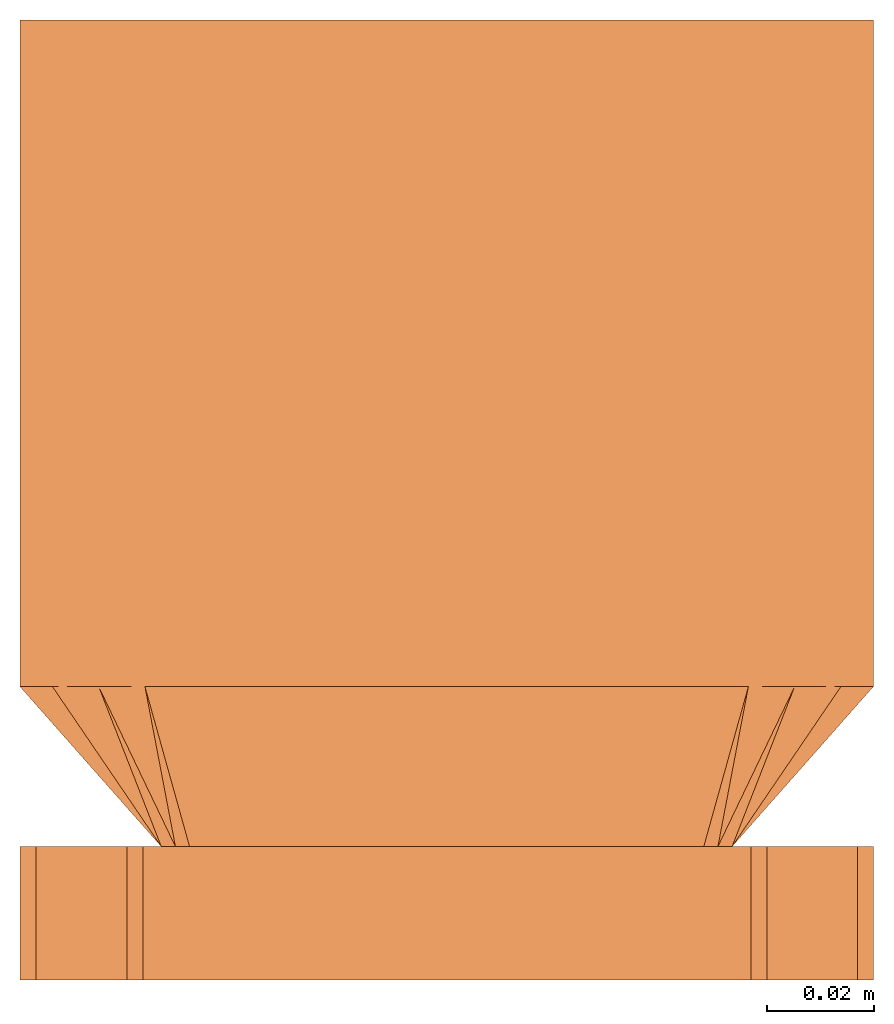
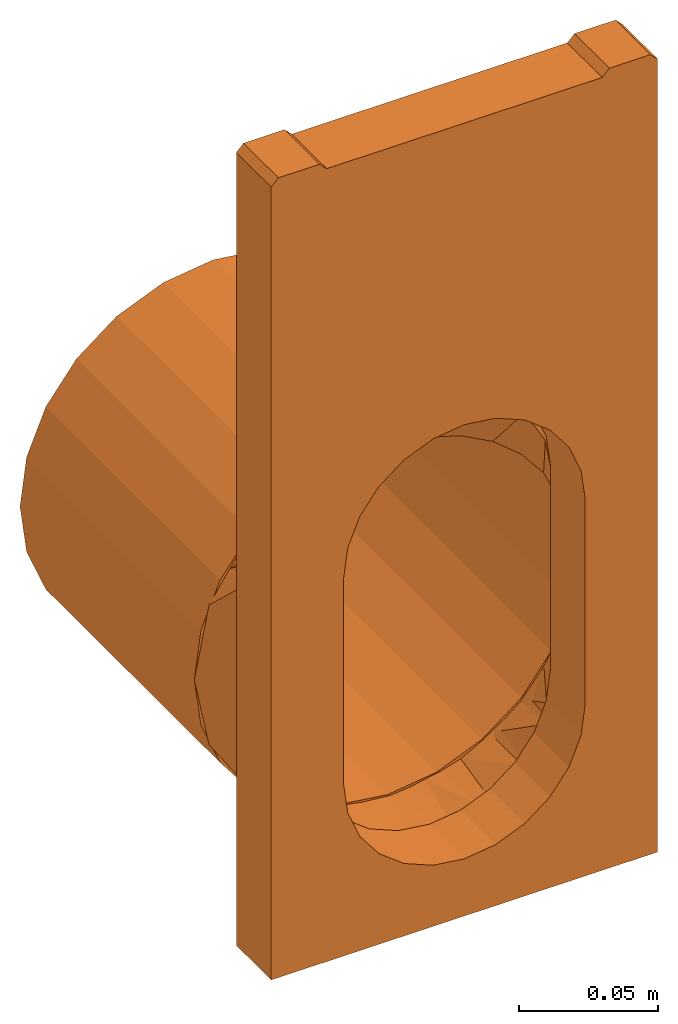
# One storey: 1 proxy.
"""IFC2X3 building model written with IfcOpenShell, lengths in millimetres."""

from ifc_helpers import new_model, entity, si_unit, converted_unit, direction, frame, origin, place, context, subcontext, project, spatial, faceted_brep, source, transform, mapped, material, element, save


model = new_model("IFC2X3")

# Units and contexts
model_context = context("Model", 3, precision=1e-06, world=origin(), true_north=direction((2.0, 6.12303176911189e-17, 1.0)))
context_of_model = context(None, 3, precision=1e-06, world=origin(), true_north=direction((2.0, 6.12303176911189e-17, 1.0)))
body_context = subcontext(model_context, "Body", "Model", "MODEL_VIEW")
ifc_project = project(units=[si_unit("LENGTHUNIT", "METRE", prefix="MILLI"), si_unit("AREAUNIT", "SQUARE_METRE", prefix="MILLI"), si_unit("VOLUMEUNIT", "CUBIC_METRE", prefix="MILLI"), converted_unit("PLANEANGLEUNIT", "DEGREE", entity("IfcRatioMeasure", 0.0174532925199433), si_unit("PLANEANGLEUNIT", "RADIAN"), dimensions=[0, 0, 0, 0, 0, 0, 0]), si_unit("TIMEUNIT", "SECOND")], contexts=[model_context, context_of_model])

# Site, building, storey
site_placement = place(None, origin())
site = spatial("IfcSite", under=ifc_project, at=site_placement, Name="Default", CompositionType="ELEMENT")
building_placement = place(site_placement, origin())
building = spatial("IfcBuilding", under=site, at=building_placement, CompositionType="ELEMENT")
storey_placement = place(building_placement, frame((0.0, 0.0, -300.0)))
storey = spatial("IfcBuildingStorey", under=building, at=storey_placement, Name="T.O. Fnd. Wall", CompositionType="ELEMENT", Elevation=-300.0)

# Proxy
ifc_material = material(Name="Acetal Resin, Black")
shared_shape = source(origin(), body_context, "Body", "Brep", [
    faceted_brep([(30.5712097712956, 55.0, -178.055268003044), (43.548143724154, 55.0, -186.726178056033), (43.4342889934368, 55.0, -190.843858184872), (30.209362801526, 55.0, -183.772672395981), (-0.0434648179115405, 55.0, -171.965630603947), (15.263872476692, 55.0, -175.010449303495), (15.8589116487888, 55.0, -179.417400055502), (0.934387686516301, 55.0, -177.945480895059), (56.5250776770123, 55.0, -195.397088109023), (55.02550662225, 55.0, -200.359168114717), (73.8668977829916, 55.0, -221.350956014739), (77.6982946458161, 55.0, -240.612688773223), (75.956487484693, 55.0, -239.530783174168), (71.6051354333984, 55.0, -225.179539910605), (64.5376212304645, 55.0, -211.952909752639), (65.195987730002, 55.0, -208.374022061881), (-30.6581394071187, 55.0, -178.055268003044), (-15.3508021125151, 55.0, -175.010449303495), (-13.9906722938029, 55.0, -179.41356594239), (-28.3426808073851, 55.0, -183.765333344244), (-56.6120073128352, 55.0, -195.397088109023), (-43.6350733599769, 55.0, -186.726178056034), (-41.5700376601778, 55.0, -190.833643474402), (-53.1643256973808, 55.0, -200.346951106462), (-62.6798502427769, 55.0, -211.939729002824), (-69.7507715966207, 55.0, -225.16650323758), (-73.9538274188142, 55.0, -221.35095601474), (-65.2829173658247, 55.0, -208.374022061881), (-80.0434648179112, 55.0, -251.965630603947), (-77.7852242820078, 55.0, -240.61268877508), (-74.1051722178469, 55.0, -239.518961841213), (-75.0352938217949, 55.0, -248.961284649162), (-13.9906722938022, 55.0, -329.477394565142), (-16.7329911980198, 55.0, -328.645877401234), (-15.3508021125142, 55.0, -328.920811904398), (-11.1459231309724, 55.0, -329.757214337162), (79.9565351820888, 55.0, -251.965630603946), (77.4244822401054, 55.0, -254.445480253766), (76.8846889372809, 55.0, -248.961227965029), (75.9564874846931, 55.0, -269.360177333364), (76.884688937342, 55.0, -259.929732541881), (77.6982946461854, 55.0, -263.318572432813), (71.6051354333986, 55.0, -283.711420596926), (73.8668977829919, 55.0, -282.580305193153), (65.5926618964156, 55.0, -294.963574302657), (56.525077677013, 55.0, -308.53417309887), (48.4493637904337, 55.0, -313.930192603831), (55.0255066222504, 55.0, -308.531792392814), (63.1137771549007, 55.0, -298.673487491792), (43.4342889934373, 55.0, -318.04710232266), (37.696558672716, 55.0, -321.114987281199), (43.5481437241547, 55.0, -317.20508315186), (9.1671071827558, 55.0, -330.133533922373), (-0.0434648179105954, 55.0, -331.965630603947), (0.934387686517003, 55.0, -330.945479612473), (30.2093628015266, 55.0, -325.11828811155), (30.5712097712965, 55.0, -325.87599320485), (22.2760080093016, 55.0, -327.52601142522), (-73.9538274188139, 55.0, -282.580305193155), (-69.7507715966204, 55.0, -283.724457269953), (-62.6798502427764, 55.0, -296.951231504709), (-65.2829173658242, 55.0, -295.557239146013), (-53.1643256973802, 55.0, -308.544009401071), (-56.6120073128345, 55.0, -308.534173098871), (-77.7852242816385, 55.0, -263.31857243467), (-74.1051722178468, 55.0, -269.37199866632), (-75.5755177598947, 55.0, -254.445480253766), (-75.0352938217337, 55.0, -259.929675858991), (-30.6581394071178, 55.0, -325.87599320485), (-28.3426808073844, 55.0, -325.125627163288), (-41.5700376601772, 55.0, -318.05731703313), (-43.6350733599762, 55.0, -317.20508315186), (15.8589116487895, 55.0, -329.473560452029), (15.263872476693, 55.0, -328.920811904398), (64.5376212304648, 55.0, -296.938050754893), (65.1959877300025, 55.0, -295.557239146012), (-11.9483347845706, 25.0, -136.306987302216), (-22.6742520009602, 25.0, -141.47231679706), (-24.1076169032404, 25.0, -147.666380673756), (-7.76907257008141, 25.0, -141.71068152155), (-37.3964829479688, 25.0, -158.832072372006), (-33.4001692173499, 25.0, -146.637646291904), (-40.8227342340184, 25.0, -155.945248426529), (11.8614051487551, 25.0, -136.306987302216), (-0.0434648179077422, 25.0, -136.306987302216), (9.61216484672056, 25.0, -141.709645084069), (-53.5434648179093, 25.0, -188.465630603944), (-49.0755177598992, 25.0, -190.94910254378), (-46.0639370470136, 25.0, -173.858507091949), (-50.8943820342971, 25.0, -176.859240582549), (-53.543464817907, 25.0, -278.465630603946), (-49.0755177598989, 25.0, -280.945480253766), (-48.2452992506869, 25.0, -165.252850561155), (25.939235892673, 25.0, -147.656353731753), (22.5873223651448, 25.0, -141.47231679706), (39.2489105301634, 25.0, -158.836204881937), (33.3132395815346, 25.0, -146.637646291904), (47.915212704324, 25.0, -173.864862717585), (48.1583696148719, 25.0, -165.252850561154), (40.7358045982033, 25.0, -155.945248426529), (53.4565351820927, 25.0, -188.465630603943), (50.8074523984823, 25.0, -176.859240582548), (50.9244822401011, 25.0, -190.949102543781), (53.456535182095, 25.0, -278.465630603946), (50.9244822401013, 25.0, -280.945480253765), (-46.0589041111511, 25.0, -298.049906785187), (-50.8943820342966, 25.0, -290.072020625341), (-37.3716627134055, 25.0, -313.092101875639), (-48.2452992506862, 25.0, -301.678410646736), (-40.8227342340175, 25.0, -310.986012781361), (-24.0722982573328, 25.0, -324.248609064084), (-33.4001692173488, 25.0, -320.293614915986), (-22.674252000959, 25.0, -325.458944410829), (-11.9483347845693, 25.0, -330.624273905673), (-7.75517651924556, 25.0, -330.186352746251), (-0.0434648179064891, 25.0, -330.624273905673), (11.8614051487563, 25.0, -330.624273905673), (47.9119365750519, 25.0, -298.038728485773), (48.1583696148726, 25.0, -301.678410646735), (50.8074523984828, 25.0, -290.07202062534), (39.6657365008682, 25.0, -312.327835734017), (40.7358045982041, 25.0, -310.98601278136), (38.7342423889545, 25.0, -313.495892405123), (27.0388951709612, 25.0, -323.315179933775), (33.3132395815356, 25.0, -320.293614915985), (9.61427055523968, 25.0, -330.184566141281), (25.940049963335, 25.0, -324.237758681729), (22.5866883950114, 25.0, -325.459249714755), (39.2336106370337, 25.0, -313.076628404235), (-67.0999042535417, 40.3469125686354, -220.949928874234), (-73.5716845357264, 47.6734562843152, -236.457779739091), (67.0129746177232, 40.3469125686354, -264.909191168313), (73.4847548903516, 47.673456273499, -236.457779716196), (67.0129745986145, 40.346912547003, -220.949928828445), (73.484754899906, 47.6734562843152, -258.43741088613), (-73.571684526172, 47.673456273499, -258.437410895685), (-67.0999042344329, 40.346912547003, -264.909191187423), (65.0074213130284, 40.9429498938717, -266.862541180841), (57.9659517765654, 32.9714749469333, -273.904010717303), (-72.4712525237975, 51.4857374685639, -257.549745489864), (-69.3669872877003, 47.9714749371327, -260.654010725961), (-63.1584568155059, 40.9429498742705, -266.862541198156), (71.2159517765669, 47.9714749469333, -260.654010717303), (-56.1169872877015, 32.9714749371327, -273.904010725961), (74.3202170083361, 51.4857374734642, -257.549745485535), (-63.1584568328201, 40.9429498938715, -224.693088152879), (-56.1169872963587, 32.9714749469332, -207.82109534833), (74.3202170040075, 51.4857374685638, -247.007382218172), (71.2159517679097, 47.9714749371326, -239.569284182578), (65.0074212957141, 40.9429498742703, -224.693088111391), (-69.3669872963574, 47.9714749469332, -239.569284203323), (57.9659517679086, 32.9714749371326, -207.821095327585), (-72.471252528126, 51.4857374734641, -247.007382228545)], [[[0, 1, 2, 3]], [[4, 5, 6, 7]], [[0, 3, 6, 5]], [[8, 9, 2, 1]], [[10, 11, 12, 13]], [[14, 9, 8, 15]], [[10, 13, 14, 15]], [[16, 17, 18, 19]], [[4, 7, 18, 17]], [[20, 21, 22, 23]], [[16, 19, 22, 21]], [[24, 25, 26, 27]], [[28, 29, 30, 31]], [[26, 25, 30, 29]], [[32, 33, 34, 35]], [[20, 23, 24, 27]], [[36, 37, 38, 12]], [[39, 40, 36, 41]], [[42, 39, 43]], [[42, 43, 44]], [[45, 46, 47]], [[47, 48, 45]], [[49, 50, 51, 46]], [[52, 53, 54]], [[55, 56, 57]], [[53, 35, 54]], [[58, 59, 60, 61]], [[60, 62, 63, 61]], [[58, 64, 65, 59]], [[28, 66, 67, 65]], [[55, 50, 56]], [[33, 68, 69]], [[70, 69, 68, 71]], [[63, 62, 70, 71]], [[72, 52, 73, 57]], [[74, 48, 75, 44]], [[76, 77, 78, 79]], [[80, 78, 81, 82]], [[83, 84, 79, 85]], [[86, 87, 88, 89]], [[87, 86, 90, 91]], [[88, 80, 92, 89]], [[83, 85, 93, 94]], [[93, 95, 96, 94]], [[95, 97, 98, 99]], [[100, 101, 97, 102]], [[103, 100, 102, 104]], [[105, 91, 90, 106]], [[107, 105, 108, 109]], [[110, 107, 111, 112]], [[113, 114, 110, 112]], [[114, 113, 115, 116]], [[117, 118, 119, 103]], [[117, 120, 121, 118]], [[103, 104, 117]], [[122, 123, 124]], [[116, 125, 114]], [[126, 123, 127]], [[127, 125, 116]], [[128, 120, 122]], [[90, 86, 129, 130]], [[103, 131, 132, 133]], [[119, 45, 48, 75]], [[111, 71, 68]], [[51, 118, 121, 120]], [[41, 36, 134, 131]], [[56, 124, 123, 127]], [[116, 73, 127]], [[112, 111, 68]], [[131, 103, 43, 41]], [[135, 28, 64, 136]], [[119, 75, 103]], [[119, 118, 45]], [[53, 116, 115, 113]], [[116, 53, 52, 73]], [[71, 108, 63]], [[109, 108, 71, 111]], [[103, 75, 44, 43]], [[90, 61, 106]], [[58, 90, 136, 64]], [[90, 58, 61]], [[108, 106, 63]], [[118, 51, 46, 45]], [[124, 56, 50, 51]], [[127, 73, 57, 56]], [[112, 34, 113]], [[63, 106, 61]], [[112, 68, 33, 34]], [[113, 34, 35, 53]], [[27, 89, 20]], [[96, 1, 0]], [[21, 92, 82, 81]], [[29, 28, 130, 129]], [[16, 81, 77]], [[76, 17, 77]], [[94, 96, 0]], [[129, 86, 26, 29]], [[132, 36, 11, 133]], [[89, 27, 86]], [[89, 92, 20]], [[4, 76, 84, 83]], [[76, 4, 17]], [[1, 98, 8]], [[99, 98, 1, 96]], [[86, 27, 26]], [[100, 15, 101]], [[10, 100, 133, 11]], [[100, 10, 15]], [[98, 101, 8]], [[92, 21, 20]], [[21, 81, 16]], [[16, 77, 17]], [[94, 5, 83]], [[8, 101, 15]], [[5, 94, 0]], [[5, 4, 83]], [[104, 74, 117]], [[117, 49, 128]], [[72, 125, 126]], [[54, 125, 72]], [[55, 126, 128]], [[55, 72, 126]], [[137, 39, 42]], [[104, 138, 74]], [[67, 66, 139, 140]], [[117, 47, 49]], [[47, 117, 74]], [[42, 74, 138]], [[128, 49, 55]], [[140, 141, 65, 67]], [[32, 114, 54]], [[125, 54, 114]], [[110, 114, 32]], [[39, 137, 142, 40]], [[70, 105, 107]], [[107, 110, 69]], [[59, 141, 143]], [[69, 110, 32]], [[138, 137, 42]], [[91, 105, 60]], [[69, 70, 107]], [[70, 62, 105]], [[40, 142, 144, 37]], [[91, 60, 143]], [[62, 60, 105]], [[59, 143, 60]], [[65, 141, 59]], [[87, 24, 88]], [[88, 22, 80]], [[18, 79, 78]], [[7, 79, 18]], [[19, 78, 80]], [[19, 18, 78]], [[145, 30, 25]], [[87, 146, 24]], [[38, 37, 147, 148]], [[88, 23, 22]], [[23, 88, 24]], [[25, 24, 146]], [[80, 22, 19]], [[148, 149, 12, 38]], [[6, 85, 7]], [[79, 7, 85]], [[93, 85, 6]], [[30, 145, 150, 31]], [[2, 97, 95]], [[95, 93, 3]], [[3, 93, 6]], [[102, 14, 151]], [[102, 97, 14]], [[3, 2, 95]], [[2, 9, 97]], [[31, 150, 152, 66]], [[13, 149, 151]], [[9, 14, 97]], [[146, 145, 25]], [[13, 151, 14]], [[12, 149, 13]], [[104, 102, 151, 149]], [[91, 143, 152, 150]], [[12, 11, 36]], [[28, 31, 66]], [[36, 40, 37]], [[39, 41, 43]], [[65, 64, 28]], [[78, 77, 81]], [[79, 84, 76]], [[80, 82, 92]], [[97, 101, 98]], [[95, 99, 96]], [[105, 106, 108]], [[107, 109, 111]], [[130, 28, 135, 136]], [[130, 136, 90]], [[103, 133, 100]], [[132, 131, 134, 36]], [[51, 120, 122, 124]], [[104, 149, 148, 147]], [[147, 37, 144, 142]], [[147, 142, 137, 138]], [[147, 138, 104]], [[91, 150, 145, 146]], [[91, 146, 87]], [[152, 143, 141, 140]], [[152, 140, 139, 66]]]),
    faceted_brep([(60.0, 25.0, 0.0), (77.0, 25.0, 0.0), (80.0, 25.0, -3.0), (57.0, 25.0, -3.0), (24.9795963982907, 25.0, -141.664360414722), (12.9205486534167, 25.0, -136.66933928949), (43.2808665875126, 25.0, -159.965630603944), (35.3349354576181, 25.0, -149.610291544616), (-0.0204036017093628, 25.0, -134.965630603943), (-57.0, 25.0, -3.0), (48.2758877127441, 25.0, -172.024678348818), (-60.0, 25.0, 0.0), (-80.0, 25.0, -3.0), (-77.0, 25.0, 0.0), (-25.0204036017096, 25.0, -141.664360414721), (-12.9613558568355, 25.0, -136.66933928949), (-43.3216737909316, 25.0, -159.965630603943), (-48.3166949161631, 25.0, -172.024678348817), (-35.3757426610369, 25.0, -149.610291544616), (-50.0204036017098, 25.0, -184.965630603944), (49.9795963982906, 25.0, -274.965630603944), (49.9795963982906, 25.0, -184.965630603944), (80.0, 25.0, -349.999933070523), (48.2758877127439, 25.0, -287.90658285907), (43.2808665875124, 25.0, -299.965630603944), (35.3349354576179, 25.0, -310.320969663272), (24.9795963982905, 25.0, -318.266900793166), (12.9205486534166, 25.0, -323.261921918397), (-0.0204036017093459, 25.0, -324.965630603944), (-80.0, 25.0, -349.999933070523), (-48.3166949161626, 25.0, -287.90658285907), (-43.3216737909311, 25.0, -299.965630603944), (-50.0204036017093, 25.0, -274.965630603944), (-12.9613558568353, 25.0, -323.261921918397), (-35.3757426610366, 25.0, -310.320969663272), (-25.0204036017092, 25.0, -318.266900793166), (80.0, 0.0, -349.999933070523), (35.3349354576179, 0.0, -310.320969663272), (24.9795963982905, 0.0, -318.266900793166), (43.2808665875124, 0.0, -299.965630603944), (12.9205486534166, 0.0, -323.261921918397), (-0.0204036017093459, 0.0, -324.965630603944), (49.9795963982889, 0.0, -184.965630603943), (49.9795963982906, 0.0, -274.965630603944), (80.0, 0.0, -3.0), (48.2758877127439, 0.0, -287.90658285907), (48.2758877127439, 0.0, -172.024678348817), (-12.9613558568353, 0.0, -323.261921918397), (-80.0, 0.0, -349.999933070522), (-25.0204036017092, 0.0, -318.266900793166), (-35.3757426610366, 0.0, -310.320969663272), (-43.3216737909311, 0.0, -299.965630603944), (-50.0204036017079, 0.0, -274.965630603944), (-50.0204036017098, 0.0, -184.965630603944), (-80.0, 0.0, -3.0), (-48.3166949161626, 0.0, -287.90658285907), (35.3349354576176, 0.0, -149.610291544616), (43.2808665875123, 0.0, -159.965630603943), (57.0, 0.0, -3.0), (12.9205486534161, 0.0, -136.66933928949), (24.9795963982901, 0.0, -141.664360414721), (77.0, 0.0, 0.0), (60.0, 0.0, 0.0), (-0.0204036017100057, 0.0, -134.965630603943), (-57.0, 0.0, -3.0), (-35.3757426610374, 0.0, -149.610291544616), (-25.0204036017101, 0.0, -141.664360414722), (-48.3166949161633, 0.0, -172.024678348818), (-43.3216737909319, 0.0, -159.965630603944), (-12.9613558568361, 0.0, -136.66933928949), (-60.0, 0.0, 0.0), (-77.0, 0.0, 0.0)], [[[0, 1, 2, 3]], [[3, 2, 4, 5]], [[6, 7, 2]], [[3, 5, 8, 9]], [[7, 4, 2]], [[2, 10, 6]], [[11, 9, 12, 13]], [[14, 12, 9, 15]], [[16, 17, 12]], [[18, 16, 12]], [[14, 18, 12]], [[9, 8, 15]], [[12, 17, 19]], [[20, 21, 22]], [[20, 22, 23]], [[21, 10, 2, 22]], [[24, 22, 25]], [[22, 24, 23]], [[26, 25, 22]], [[27, 26, 22]], [[28, 27, 22, 29]], [[30, 31, 29]], [[19, 32, 29, 12]], [[30, 29, 32]], [[33, 28, 29]], [[34, 35, 29]], [[29, 35, 33]], [[34, 29, 31]], [[36, 37, 38]], [[37, 36, 39]], [[38, 40, 36]], [[36, 40, 41]], [[42, 43, 36, 44]], [[45, 39, 36]], [[46, 42, 44]], [[43, 45, 36]], [[41, 47, 48, 36]], [[48, 49, 50]], [[49, 48, 47]], [[50, 51, 48]], [[48, 52, 53, 54]], [[55, 52, 48]], [[51, 55, 48]], [[56, 57, 44]], [[58, 59, 60, 44]], [[56, 44, 60]], [[44, 61, 62, 58]], [[63, 59, 58, 64]], [[57, 46, 44]], [[54, 65, 66, 64]], [[67, 68, 54]], [[65, 54, 68]], [[64, 69, 63]], [[70, 71, 54, 64]], [[64, 66, 69]], [[67, 54, 53]], [[42, 21, 20, 43]], [[17, 67, 53, 19]], [[16, 68, 67, 17]], [[14, 66, 65, 18]], [[18, 65, 68, 16]], [[15, 69, 66, 14]], [[69, 15, 8, 63]], [[5, 59, 63, 8]], [[4, 60, 59, 5]], [[6, 57, 56, 7]], [[7, 56, 60, 4]], [[10, 46, 57, 6]], [[46, 10, 21, 42]], [[32, 19, 53, 52]], [[23, 45, 43, 20]], [[24, 39, 45, 23]], [[26, 38, 37, 25]], [[25, 37, 39, 24]], [[27, 40, 38, 26]], [[40, 27, 28, 41]], [[33, 47, 41, 28]], [[35, 49, 47, 33]], [[52, 55, 30, 32]], [[34, 50, 49, 35]], [[51, 31, 30, 55]], [[50, 34, 31, 51]], [[44, 36, 22, 2]], [[29, 48, 54, 12]], [[22, 36, 48, 29]], [[71, 70, 11, 13]], [[61, 44, 2, 1]], [[0, 62, 61, 1]], [[58, 62, 0, 3]], [[64, 58, 3, 9]], [[70, 64, 9, 11]], [[12, 54, 71, 13]]]),
    faceted_brep([(39.0815351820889, 55.0, -319.732118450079), (39.9565351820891, 55.0, -321.247662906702), (56.5250776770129, 55.0, -308.53417309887), (55.2876408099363, 55.0, -307.296736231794), (20.2091254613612, 55.0, -327.549326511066), (20.6620587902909, 55.0, -329.239696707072), (-0.0434648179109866, 55.0, -330.215630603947), (-0.0434648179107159, 55.0, -331.965630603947), (78.2065351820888, 55.0, -251.965630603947), (75.5402310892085, 55.0, -272.218220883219), (77.2306012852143, 55.0, -272.671154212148), (79.9565351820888, 55.0, -251.965630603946), (69.2385674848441, 55.0, -291.965630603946), (67.7230230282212, 55.0, -291.090630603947), (-20.2960550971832, 55.0, -327.549326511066), (-20.7489884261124, 55.0, -329.239696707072), (-39.168464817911, 55.0, -319.732118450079), (-40.0434648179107, 55.0, -321.247662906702), (-55.3745704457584, 55.0, -307.296736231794), (-56.6120073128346, 55.0, -308.534173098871), (-67.8099526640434, 55.0, -291.090630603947), (-69.325497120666, 55.0, -291.965630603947), (-75.6271607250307, 55.0, -272.218220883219), (-77.3175309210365, 55.0, -272.671154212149), (-78.2934648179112, 55.0, -251.965630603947), (-80.0434648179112, 55.0, -251.965630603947), (77.2306012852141, 55.0, -231.260106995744), (75.5402310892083, 55.0, -231.713040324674), (67.723023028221, 55.0, -212.840630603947), (69.2385674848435, 55.0, -211.965630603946), (55.287640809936, 55.0, -196.634524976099), (56.5250776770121, 55.0, -195.397088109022), (39.9565351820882, 55.0, -182.683598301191), (39.0815351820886, 55.0, -184.199142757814), (20.2091254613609, 55.0, -176.381934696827), (20.6620587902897, 55.0, -174.691564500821), (-0.0434648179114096, 55.0, -173.715630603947), (-0.0434648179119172, 55.0, -171.965630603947), (-56.6120073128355, 55.0, -195.397088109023), (-69.3254971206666, 55.0, -211.965630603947), (-67.8099526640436, 55.0, -212.840630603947), (-55.3745704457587, 55.0, -196.6345249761), (-77.3175309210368, 55.0, -231.260106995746), (-75.6271607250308, 55.0, -231.713040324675), (-20.7489884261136, 55.0, -174.691564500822), (-20.2960550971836, 55.0, -176.381934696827), (-39.1684648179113, 55.0, -184.199142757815), (-40.0434648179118, 55.0, -182.683598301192), (39.0815351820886, 180.0, -184.199142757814), (39.9565351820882, 180.0, -182.683598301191), (56.5250776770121, 180.0, -195.397088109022), (55.287640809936, 180.0, -196.634524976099), (20.2091254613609, 180.0, -176.381934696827), (20.6620587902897, 180.0, -174.691564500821), (-0.0434648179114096, 180.0, -173.715630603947), (-0.0434648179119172, 180.0, -171.965630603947), (78.2065351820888, 180.0, -251.965630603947), (75.5402310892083, 180.0, -231.713040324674), (77.2306012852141, 180.0, -231.260106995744), (79.9565351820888, 180.0, -251.965630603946), (69.2385674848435, 180.0, -211.965630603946), (67.723023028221, 180.0, -212.840630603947), (-20.2960550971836, 180.0, -176.381934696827), (-20.7489884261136, 180.0, -174.691564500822), (-39.1684648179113, 180.0, -184.199142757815), (-40.0434648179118, 180.0, -182.683598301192), (-55.3745704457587, 180.0, -196.6345249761), (-56.6120073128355, 180.0, -195.397088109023), (-67.8099526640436, 180.0, -212.840630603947), (-69.3254971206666, 180.0, -211.965630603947), (-75.6271607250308, 180.0, -231.713040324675), (-77.3175309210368, 180.0, -231.260106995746), (-78.2934648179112, 180.0, -251.965630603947), (-80.0434648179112, 180.0, -251.965630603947), (77.2306012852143, 180.0, -272.671154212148), (75.5402310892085, 180.0, -272.218220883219), (67.7230230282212, 180.0, -291.090630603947), (69.2385674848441, 180.0, -291.965630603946), (55.2876408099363, 180.0, -307.296736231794), (56.5250776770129, 180.0, -308.53417309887), (39.9565351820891, 180.0, -321.247662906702), (39.0815351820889, 180.0, -319.732118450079), (20.2091254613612, 180.0, -327.549326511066), (20.6620587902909, 180.0, -329.239696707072), (-0.0434648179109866, 180.0, -330.215630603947), (-0.0434648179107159, 180.0, -331.965630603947), (-56.6120073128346, 180.0, -308.534173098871), (-69.325497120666, 180.0, -291.965630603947), (-67.8099526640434, 180.0, -291.090630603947), (-55.3745704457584, 180.0, -307.296736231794), (-77.3175309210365, 180.0, -272.671154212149), (-75.6271607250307, 180.0, -272.218220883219), (-20.7489884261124, 180.0, -329.239696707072), (-20.2960550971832, 180.0, -327.549326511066), (-39.168464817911, 180.0, -319.732118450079), (-40.0434648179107, 180.0, -321.247662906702)], [[[0, 1, 2, 3]], [[1, 0, 4, 5]], [[5, 4, 6, 7]], [[8, 9, 10, 11]], [[12, 10, 9, 13]], [[12, 13, 3, 2]], [[14, 15, 7, 6]], [[15, 14, 16, 17]], [[18, 19, 17, 16]], [[20, 21, 19, 18]], [[21, 20, 22, 23]], [[23, 22, 24, 25]], [[11, 26, 27, 8]], [[28, 27, 26, 29]], [[30, 28, 29, 31]], [[31, 32, 33, 30]], [[34, 33, 32, 35]], [[36, 34, 35, 37]], [[38, 39, 40, 41]], [[40, 39, 42, 43]], [[43, 42, 25, 24]], [[37, 44, 45, 36]], [[46, 45, 44, 47]], [[47, 38, 41, 46]], [[48, 49, 50, 51]], [[49, 48, 52, 53]], [[53, 52, 54, 55]], [[56, 57, 58, 59]], [[60, 58, 57, 61]], [[60, 61, 51, 50]], [[62, 63, 55, 54]], [[63, 62, 64, 65]], [[66, 67, 65, 64]], [[68, 69, 67, 66]], [[69, 68, 70, 71]], [[71, 70, 72, 73]], [[59, 74, 75, 56]], [[76, 75, 74, 77]], [[78, 76, 77, 79]], [[79, 80, 81, 78]], [[82, 81, 80, 83]], [[84, 82, 83, 85]], [[86, 87, 88, 89]], [[88, 87, 90, 91]], [[91, 90, 73, 72]], [[85, 92, 93, 84]], [[94, 93, 92, 95]], [[95, 86, 89, 94]], [[74, 10, 12, 77]], [[77, 12, 2, 79]], [[80, 1, 5, 83]], [[79, 2, 1, 80]], [[83, 5, 7, 85]], [[59, 11, 10, 74]], [[92, 15, 17, 95]], [[95, 17, 19, 86]], [[87, 21, 23, 90]], [[86, 19, 21, 87]], [[90, 23, 25, 73]], [[15, 92, 85, 7]], [[71, 42, 39, 69]], [[69, 39, 38, 67]], [[65, 47, 44, 63]], [[67, 38, 47, 65]], [[63, 44, 37, 55]], [[73, 25, 42, 71]], [[53, 35, 32, 49]], [[49, 32, 31, 50]], [[60, 29, 26, 58]], [[50, 31, 29, 60]], [[58, 26, 11, 59]], [[35, 53, 55, 37]], [[27, 57, 56, 8]], [[28, 61, 57, 27]], [[33, 48, 51, 30]], [[30, 51, 61, 28]], [[34, 52, 48, 33]], [[52, 34, 36, 54]], [[46, 64, 62, 45]], [[41, 66, 64, 46]], [[43, 70, 68, 40]], [[40, 68, 66, 41]], [[24, 72, 70, 43]], [[45, 62, 54, 36]], [[22, 91, 72, 24]], [[20, 88, 91, 22]], [[16, 94, 89, 18]], [[18, 89, 88, 20]], [[14, 93, 94, 16]], [[93, 14, 6, 84]], [[0, 81, 82, 4]], [[3, 78, 81, 0]], [[9, 75, 76, 13]], [[13, 76, 78, 3]], [[8, 56, 75, 9]], [[4, 82, 84, 6]]]),
])
proxy_placement = place(storey_placement, frame((-5682.99544306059, -10247.1166238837, 300.0)))
element("IfcBuildingElementProxy", 1, at=proxy_placement, inside=storey, material=ifc_material, Name="Civil-Drainage-Channel-ACO-KerbDrain-HB480(amar):32308 - Junction end cap:32308 - Junction end cap", ObjectType="32308 - Junction end cap", CompositionType="ELEMENT", context=body_context, shape_type="MappedRepresentation", body=[
    mapped(shared_shape, transform((0.0, 0.0, 0.0), scale=1.0)),
])

save(model, "model.ifc")
